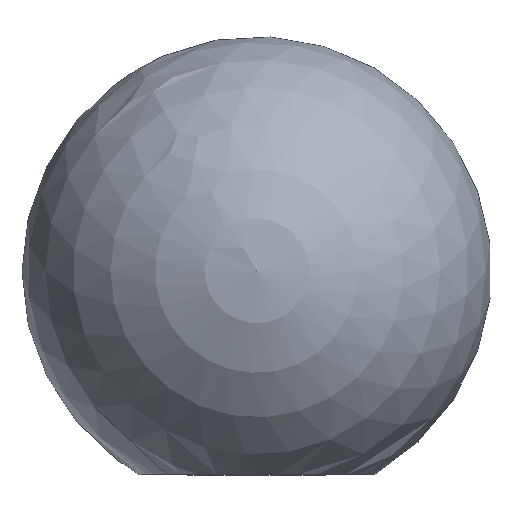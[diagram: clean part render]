
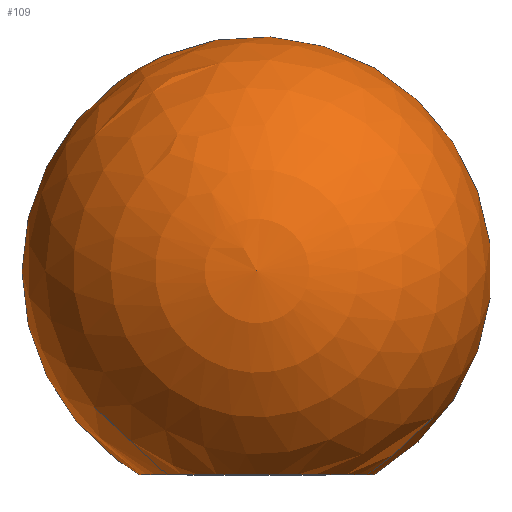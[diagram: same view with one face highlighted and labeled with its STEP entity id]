
A CAD part, top view. The second image highlights one B-rep face of the part: STEP entity #109.
In plain terms, the highlighted spherical face has radius 6 mm.
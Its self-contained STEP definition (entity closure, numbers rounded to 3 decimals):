
#2 = CARTESIAN_POINT ( 'NONE',  ( 0., 0., 0. ) ) ;
#5 = DIRECTION ( 'NONE',  ( 0., 0., 1. ) ) ;
#7 = DIRECTION ( 'NONE',  ( 1., 0., 0. ) ) ;
#8 = DIRECTION ( 'NONE',  ( 0., -1., 0. ) ) ;
#9 = DIRECTION ( 'NONE',  ( 0., 0., -1. ) ) ;
#17 = VERTEX_POINT ( 'NONE', #59 ) ;
#28 = CIRCLE ( 'NONE', #127, 2.993 ) ;
#47 = CARTESIAN_POINT ( 'NONE',  ( 0., 5.2, 0. ) ) ;
#54 = ORIENTED_EDGE ( 'NONE', *, *, #121, .F. ) ;
#59 = CARTESIAN_POINT ( 'NONE',  ( 0., 0., -2.993 ) ) ;
#76 = FACE_OUTER_BOUND ( 'NONE', #171, .T. ) ;
#93 = SPHERICAL_SURFACE ( 'NONE', #102, 6. ) ;
#102 = AXIS2_PLACEMENT_3D ( 'NONE', #47, #5, #7 ) ;
#109 = ADVANCED_FACE ( 'NONE', ( #76 ), #93, .T. ) ;
#121 = EDGE_CURVE ( 'NONE', #17, #17, #28, .T. ) ;
#127 = AXIS2_PLACEMENT_3D ( 'NONE', #2, #8, #9 ) ;
#171 = EDGE_LOOP ( 'NONE', ( #54 ) ) ;
